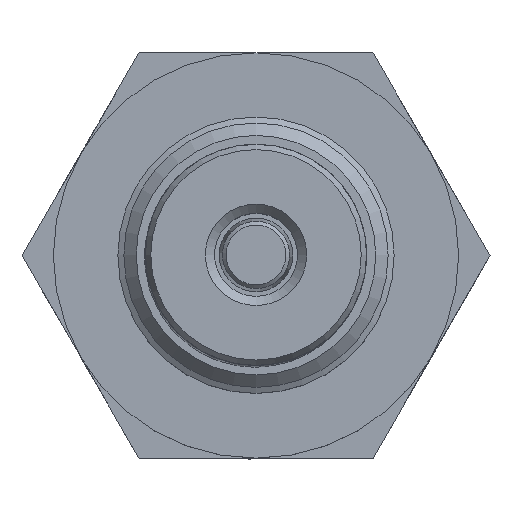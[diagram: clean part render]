
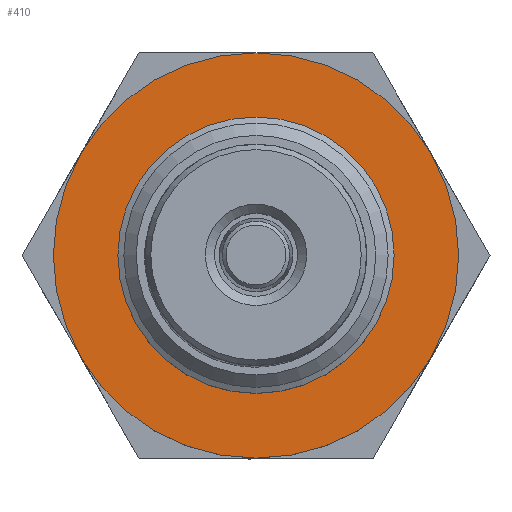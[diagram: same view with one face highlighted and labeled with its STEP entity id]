
A CAD part, top view. The second image highlights one B-rep face of the part: STEP entity #410.
In plain terms, the highlighted planar face has unit normal (0, 0, 1).
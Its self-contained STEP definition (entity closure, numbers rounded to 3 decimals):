
#131 = ORIENTED_EDGE ( 'NONE', *, *, #5885, .F. ) ;
#316 = AXIS2_PLACEMENT_3D ( 'NONE', #27995, #23133, #6903 ) ;
#410 = ADVANCED_FACE ( 'NONE', ( #1460, #21000 ), #30586, .T. ) ;
#1460 = FACE_OUTER_BOUND ( 'NONE', #29869, .T. ) ;
#2284 = AXIS2_PLACEMENT_3D ( 'NONE', #30493, #26088, #16505 ) ;
#3544 = VERTEX_POINT ( 'NONE', #5915 ) ;
#5885 = EDGE_CURVE ( 'NONE', #3544, #3544, #26432, .T. ) ;
#5915 = CARTESIAN_POINT ( 'NONE',  ( 6.5, 0., 6. ) ) ;
#6903 = DIRECTION ( 'NONE',  ( 1., 0., 0. ) ) ;
#7380 = CIRCLE ( 'NONE', #316, 11. ) ;
#9036 = CARTESIAN_POINT ( 'NONE',  ( 0., 0., 6. ) ) ;
#13290 = ORIENTED_EDGE ( 'NONE', *, *, #27945, .T. ) ;
#16333 = AXIS2_PLACEMENT_3D ( 'NONE', #9036, #28229, #26016 ) ;
#16505 = DIRECTION ( 'NONE',  ( 1., 0., 0. ) ) ;
#17476 = CARTESIAN_POINT ( 'NONE',  ( 11., 0., 6. ) ) ;
#21000 = FACE_BOUND ( 'NONE', #25586, .T. ) ;
#23133 = DIRECTION ( 'NONE',  ( 0., 0., 1. ) ) ;
#25586 = EDGE_LOOP ( 'NONE', ( #131 ) ) ;
#26016 = DIRECTION ( 'NONE',  ( 1., 0., 0. ) ) ;
#26088 = DIRECTION ( 'NONE',  ( 0., 0., 1. ) ) ;
#26432 = CIRCLE ( 'NONE', #2284, 6.5 ) ;
#27945 = EDGE_CURVE ( 'NONE', #29429, #29429, #7380, .T. ) ;
#27995 = CARTESIAN_POINT ( 'NONE',  ( 0., 0., 6. ) ) ;
#28229 = DIRECTION ( 'NONE',  ( 0., 0., 1. ) ) ;
#29429 = VERTEX_POINT ( 'NONE', #17476 ) ;
#29869 = EDGE_LOOP ( 'NONE', ( #13290 ) ) ;
#30493 = CARTESIAN_POINT ( 'NONE',  ( 0., 0., 6. ) ) ;
#30586 = PLANE ( 'NONE',  #16333 ) ;
